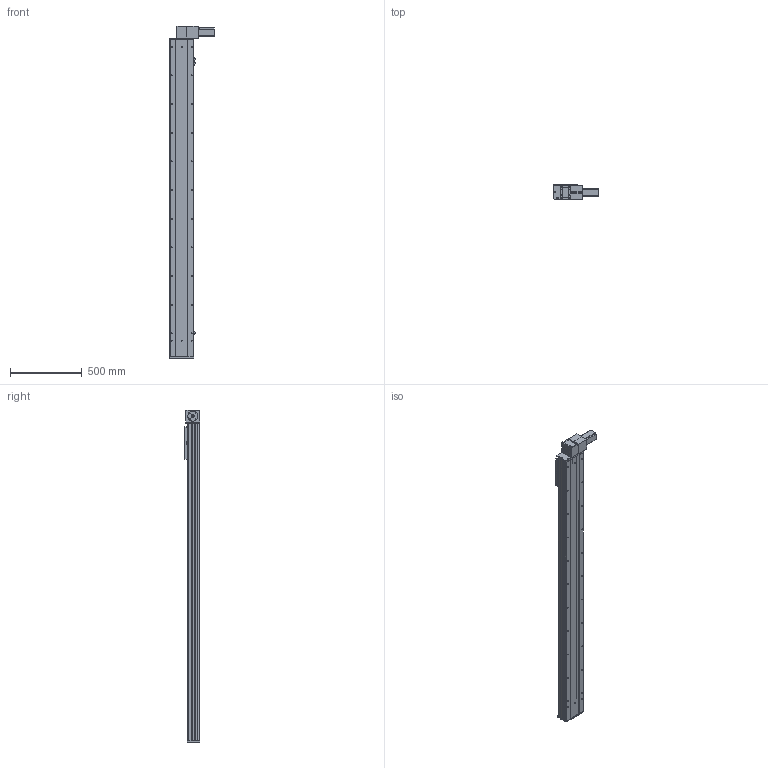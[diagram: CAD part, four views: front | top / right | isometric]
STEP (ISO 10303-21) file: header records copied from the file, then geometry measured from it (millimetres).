
FILE_DESCRIPTION (( 'STEP AP203' ), '1' );
FILE_NAME ('Y170CB-D105-S1900-BD-P400W.STEP', '2020-02-20T08:56:49', ( '微软用户' ), ( '微软中国' ), 'SwSTEP 2.0', 'SolidWorks 2017', '' );
FILE_SCHEMA (( 'CONFIG_CONTROL_DESIGN' ));
Length unit declared in the file: millimetre
Products named in the file (16): 70CB-詩湍--; san松下电机400不带刹车----; Y100-135俋离換覜ん--; 70CB-掛极-; Y170CB-陔俋离換覜結え---; --70CB --喘謫眊楊擘啣-; Y1埴倛裔; 70CB-耜裔啣-; 70B喘謫眊----; 70C--詩湍揤踡え-; 0B薊粣ん眊-400W--; 70CB--耜裔; Y170CB-D105-S1900-BD-P400W; 70C-雄赽釱-奻-; 0C--雄赽釱俋欶-170; B-源倛裔啣
Assembly tree (19 placements, depth 2):
  Y170CB-D105-S1900-BD-P400W
    B-源倛裔啣
    san松下电机400不带刹车----
    70CB-掛极-
    --70CB --喘謫眊楊擘啣-
    70CB-耜裔啣-  x2
    70C--詩湍揤踡え-  x2
    70CB--耜裔
    70C-雄赽釱-奻-
    0C--雄赽釱俋欶-170
    70CB-詩湍--
    Y100-135俋离換覜ん--  x3
    Y170CB-陔俋离換覜結え---
    Y1埴倛裔
    70B喘謫眊----
    0B薊粣ん眊-400W--
Bounding box: 313.5 x 107 x 2316 mm (x, y, z)
Volume: 10369835.2 mm3; surface area: 3606335.5 mm2
Topology: 19 solids, 19 shells, 960 faces, 2546 edges, 1688 vertices
Faces by surface type: cylinder 514, plane 422, cone 24
Entity records: 30179 total; most frequent: CARTESIAN_POINT 5626, DIRECTION 4911, ORIENTED_EDGE 4574, EDGE_CURVE 2287, AXIS2_PLACEMENT_3D 1821, VERTEX_POINT 1518, LINE 1269, VECTOR 1269
